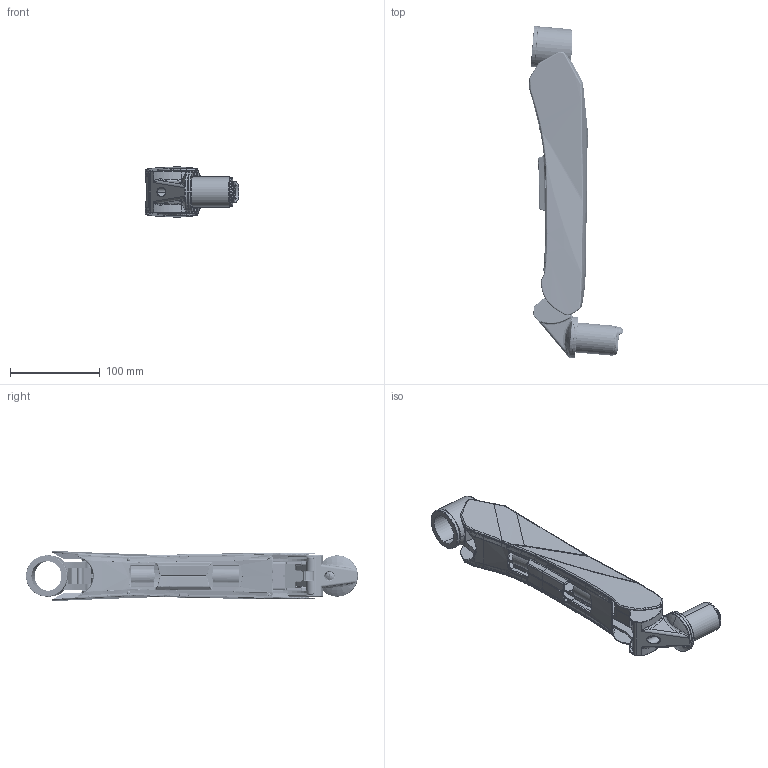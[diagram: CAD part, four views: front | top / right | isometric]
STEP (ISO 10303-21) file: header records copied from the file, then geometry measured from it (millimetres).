
FILE_DESCRIPTION((''),'2;1');
FILE_NAME('M1060_ASM','2013-04-24T',('B0540'),(''),'PRO/ENGINEER BY PARAMETRIC TECHNOLOGY CORPORATION, 2012360','PRO/ENGINEER BY PARAMETRIC TECHNOLOGY CORPORATION, 2012360','');
FILE_SCHEMA(('CONFIG_CONTROL_DESIGN'));
Length unit declared in the file: millimetre
Products named in the file (24): EM35111-22; EM35111-12; EM35111-31; EM35111-56; EM35111-34; EM35111-35; EM35111-57; EM35111-29; EM35111-24; EM35111-23; EM35111-13; EM35111-42; EM35111-55; EM35111-39; EM35111-61; EM35111-62; EM35111-44-M2X5MM; EM35111-59; EM35111-54; EM35111-38; EM35111-53; EM35111-07_ASM; EM35111-43-M3X3MM; M1060_ASM
Assembly tree (32 placements, depth 3):
  M1060_ASM
    EM35111-22
    EM35111-12
    EM35111-31  x2
    EM35111-56
    EM35111-34
    EM35111-35
    EM35111-57
    EM35111-29  x2
    EM35111-24
    EM35111-23
    EM35111-13
    EM35111-42  x4
    EM35111-55
    EM35111-39
    EM35111-61
    EM35111-62
    EM35111-44-M2X5MM  x4
    EM35111-59
    EM35111-07_ASM
      EM35111-54
      EM35111-38
      EM35111-53
    EM35111-43-M3X3MM  x2
Bounding box: 104.82 x 370.53 x 56.16 mm (x, y, z)
Volume: 268947.7 mm3; surface area: 254997.8 mm2
Topology: 32 solids, 33 shells, 3364 faces, 8828 edges, 5530 vertices
Faces by surface type: cylinder 1298, plane 901, bspline 778, torus 244, cone 74, extrusion 36, sphere 33
Entity records: 153920 total; most frequent: CARTESIAN_POINT 86935, ORIENTED_EDGE 15564, DIRECTION 11355, EDGE_CURVE 7787, VERTEX_POINT 4888, AXIS2_PLACEMENT_3D 4260, EDGE_LOOP 3136, B_SPLINE_CURVE_WITH_KNOTS 3051
